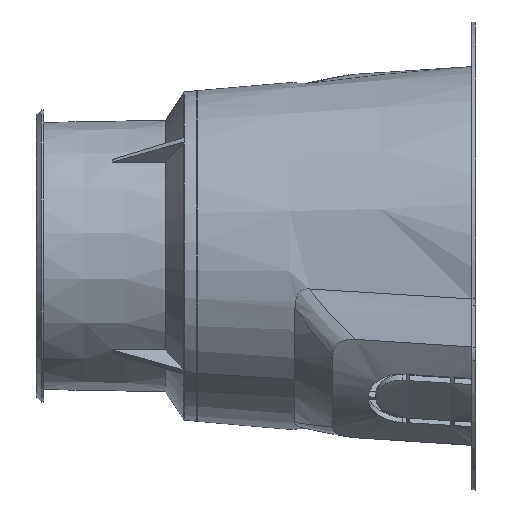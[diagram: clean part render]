
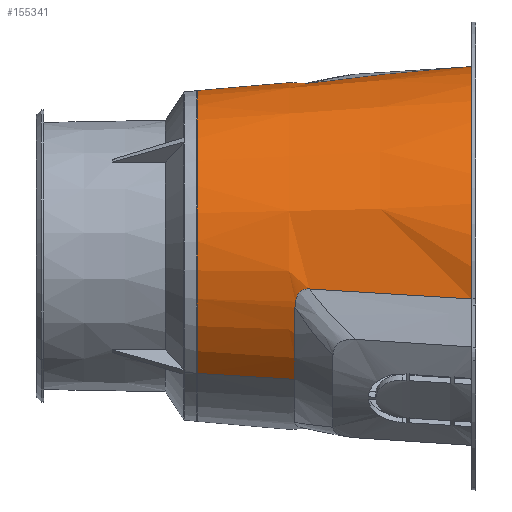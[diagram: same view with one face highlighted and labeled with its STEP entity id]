
A CAD part, left-side view. The second image highlights one B-rep face of the part: STEP entity #155341.
In plain terms, the highlighted conical face has half-angle 4.938 degrees and reference radius 70.313 mm.
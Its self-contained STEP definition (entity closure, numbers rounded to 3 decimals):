
#147821=CARTESIAN_POINT('',(-26.9,0.,-9.6));
#147822=DIRECTION('',(-1.,0.,0.));
#147823=DIRECTION('',(0.,-1.,0.));
#147824=AXIS2_PLACEMENT_3D('',#147821,#147822,#147823);
#147912=DIRECTION('',(0.996,0.086,0.));
#147913=VECTOR('',#147912,38.699);
#147914=CARTESIAN_POINT('',(-65.456,-68.957,
-9.6));
#147915=LINE('',#147914,#147913);
#147974=CARTESIAN_POINT('',(-135.4,63.658,
30.056));
#147975=CARTESIAN_POINT('',(-128.268,62.974,
29.99));
#147976=CARTESIAN_POINT('',(-113.997,61.604,
29.849));
#147977=CARTESIAN_POINT('',(-92.567,59.535,
29.636));
#147978=CARTESIAN_POINT('',(-78.265,58.146,
29.491));
#147979=CARTESIAN_POINT('',(-71.11,57.451,
29.414));
#147981=CARTESIAN_POINT('',(-65.456,0.,-9.6));
#147982=DIRECTION('',(-1.,0.,0.));
#147983=DIRECTION('',(0.,0.885,0.465));
#147984=AXIS2_PLACEMENT_3D('',#147981,#147982,#147983);
#147986=DIRECTION('',(0.996,-0.086,0.));
#147987=VECTOR('',#147986,38.699);
#147988=CARTESIAN_POINT('',(-65.456,68.957,-9.6));
#147989=LINE('',#147988,#147987);
#147990=CARTESIAN_POINT('',(-71.11,-57.451,
29.414));
#147991=CARTESIAN_POINT('',(-78.265,-58.146,
29.491));
#147992=CARTESIAN_POINT('',(-92.567,-59.535,
29.636));
#147993=CARTESIAN_POINT('',(-113.997,-61.604,
29.849));
#147994=CARTESIAN_POINT('',(-128.268,-62.974,
29.99));
#147995=CARTESIAN_POINT('',(-135.4,-63.658,
30.056));
#148066=CARTESIAN_POINT('',(-135.4,0.,-9.6));
#148067=DIRECTION('',(1.,0.,0.));
#148068=DIRECTION('',(0.,0.849,0.529));
#148069=AXIS2_PLACEMENT_3D('',#148066,#148067,#148068);
#148564=CARTESIAN_POINT('',(-65.456,0.,-9.6));
#148565=DIRECTION('',(1.,0.,0.));
#148566=DIRECTION('',(0.,-0.885,0.465));
#148567=AXIS2_PLACEMENT_3D('',#148564,#148565,#148566);
#148591=CARTESIAN_POINT('',(-71.11,-57.451,
29.414));
#148592=CARTESIAN_POINT('',(-70.827,-57.423,
29.411));
#148593=CARTESIAN_POINT('',(-70.291,-57.389,
29.379));
#148594=CARTESIAN_POINT('',(-69.587,-57.394,
29.264));
#148595=CARTESIAN_POINT('',(-68.963,-57.447,
29.088));
#148596=CARTESIAN_POINT('',(-68.401,-57.546,
28.854));
#148597=CARTESIAN_POINT('',(-67.895,-57.688,
28.562));
#148598=CARTESIAN_POINT('',(-67.423,-57.877,
28.2));
#148599=CARTESIAN_POINT('',(-66.988,-58.117,
27.761));
#148600=CARTESIAN_POINT('',(-66.581,-58.421,
27.219));
#148601=CARTESIAN_POINT('',(-66.213,-58.797,
26.556));
#148602=CARTESIAN_POINT('',(-65.897,-59.25,
25.756));
#148603=CARTESIAN_POINT('',(-65.653,-59.774,
24.822));
#148604=CARTESIAN_POINT('',(-65.495,-60.368,
23.743));
#148605=CARTESIAN_POINT('',(-65.456,-60.81,
22.919));
#148606=CARTESIAN_POINT('',(-65.456,-61.041,
22.48));
#149031=CARTESIAN_POINT('',(-65.456,61.04,
22.48));
#149032=CARTESIAN_POINT('',(-65.456,60.811,
22.916));
#149033=CARTESIAN_POINT('',(-65.494,60.372,
23.736));
#149034=CARTESIAN_POINT('',(-65.651,59.781,
24.811));
#149035=CARTESIAN_POINT('',(-65.893,59.257,
25.744));
#149036=CARTESIAN_POINT('',(-66.206,58.805,
26.541));
#149037=CARTESIAN_POINT('',(-66.574,58.427,
27.208));
#149038=CARTESIAN_POINT('',(-66.981,58.122,
27.753));
#149039=CARTESIAN_POINT('',(-67.417,57.88,
28.195));
#149040=CARTESIAN_POINT('',(-67.885,57.691,
28.555));
#149041=CARTESIAN_POINT('',(-68.391,57.549,
28.849));
#149042=CARTESIAN_POINT('',(-68.949,57.449,
29.083));
#149043=CARTESIAN_POINT('',(-69.576,57.394,
29.261));
#149044=CARTESIAN_POINT('',(-70.282,57.388,
29.379));
#149045=CARTESIAN_POINT('',(-70.824,57.423,
29.411));
#149046=CARTESIAN_POINT('',(-71.11,57.451,
29.414));
#153824=CARTESIAN_POINT('',(-26.9,65.626,-9.6));
#153825=CARTESIAN_POINT('',(-26.9,-65.626,-9.6));
#153826=VERTEX_POINT('',#153824);
#153827=VERTEX_POINT('',#153825);
#153873=CARTESIAN_POINT('',(-65.456,-68.957,
-9.6));
#153874=VERTEX_POINT('',#153873);
#153875=CARTESIAN_POINT('',(-65.456,68.957,-9.6));
#153876=VERTEX_POINT('',#153875);
#153883=CARTESIAN_POINT('',(-65.456,61.04,
22.48));
#153884=VERTEX_POINT('',#153883);
#153888=VERTEX_POINT('',#147974);
#153889=VERTEX_POINT('',#147979);
#153890=CARTESIAN_POINT('',(-65.456,-61.041,
22.48));
#153891=VERTEX_POINT('',#153890);
#153892=VERTEX_POINT('',#148591);
#153893=VERTEX_POINT('',#147995);
#155318=CARTESIAN_POINT('',(-81.15,0.,-9.6));
#155319=DIRECTION('',(-1.,0.,0.));
#155320=DIRECTION('',(0.,-1.,0.));
#155321=AXIS2_PLACEMENT_3D('',#155318,#155319,#155320);
#155322=CONICAL_SURFACE('',#155321,70.313,4.938);
#155324=ORIENTED_EDGE('',*,*,#155323,.T.);
#155326=ORIENTED_EDGE('',*,*,#155325,.F.);
#155327=ORIENTED_EDGE('',*,*,#155306,.T.);
#155328=ORIENTED_EDGE('',*,*,#155198,.T.);
#155329=ORIENTED_EDGE('',*,*,#155121,.F.);
#155330=ORIENTED_EDGE('',*,*,#155195,.F.);
#155332=ORIENTED_EDGE('',*,*,#155331,.F.);
#155334=ORIENTED_EDGE('',*,*,#155333,.F.);
#155336=ORIENTED_EDGE('',*,*,#155335,.T.);
#155338=ORIENTED_EDGE('',*,*,#155337,.F.);
#155339=EDGE_LOOP('',(#155324,#155326,#155327,#155328,#155329,#155330,#155332,
#155334,#155336,#155338));
#155340=FACE_OUTER_BOUND('',#155339,.F.);
#155341=ADVANCED_FACE('',(#155340),#155322,.T.);
#147825=CIRCLE('',#147824,65.626);
#147980=B_SPLINE_CURVE_WITH_KNOTS('',3,(#147974,#147975,#147976,#147977,#147978,
#147979),.UNSPECIFIED.,.F.,.F.,(4,1,1,4),(0.,0.333,
0.667,1.),.UNSPECIFIED.);
#147985=CIRCLE('',#147984,68.957);
#147996=B_SPLINE_CURVE_WITH_KNOTS('',3,(#147990,#147991,#147992,#147993,#147994,
#147995),.UNSPECIFIED.,.F.,.F.,(4,1,1,4),(0.,0.333,
0.667,1.),.UNSPECIFIED.);
#148070=CIRCLE('',#148069,75.);
#148568=CIRCLE('',#148567,68.957);
#148607=B_SPLINE_CURVE_WITH_KNOTS('',3,(#148591,#148592,#148593,#148594,#148595,
#148596,#148597,#148598,#148599,#148600,#148601,#148602,#148603,#148604,#148605,
#148606),.UNSPECIFIED.,.F.,.F.,(4,1,1,1,1,1,1,1,1,1,1,1,1,4),(0.,
0.077,0.154,0.231,0.308,
0.385,0.462,0.538,0.615,
0.692,0.769,0.846,0.923,1.),
.UNSPECIFIED.);
#149047=B_SPLINE_CURVE_WITH_KNOTS('',3,(#149031,#149032,#149033,#149034,#149035,
#149036,#149037,#149038,#149039,#149040,#149041,#149042,#149043,#149044,#149045,
#149046),.UNSPECIFIED.,.F.,.F.,(4,1,1,1,1,1,1,1,1,1,1,1,1,4),(0.,
0.077,0.154,0.231,0.308,
0.385,0.462,0.538,0.615,
0.692,0.769,0.846,0.923,1.),
.UNSPECIFIED.);
#155121=EDGE_CURVE('',#153827,#153826,#147825,.T.);
#155195=EDGE_CURVE('',#153874,#153827,#147915,.T.);
#155198=EDGE_CURVE('',#153876,#153826,#147989,.T.);
#155306=EDGE_CURVE('',#153884,#153876,#147985,.T.);
#155323=EDGE_CURVE('',#153888,#153889,#147980,.T.);
#155325=EDGE_CURVE('',#153884,#153889,#149047,.T.);
#155331=EDGE_CURVE('',#153891,#153874,#148568,.T.);
#155333=EDGE_CURVE('',#153892,#153891,#148607,.T.);
#155335=EDGE_CURVE('',#153892,#153893,#147996,.T.);
#155337=EDGE_CURVE('',#153888,#153893,#148070,.T.);
